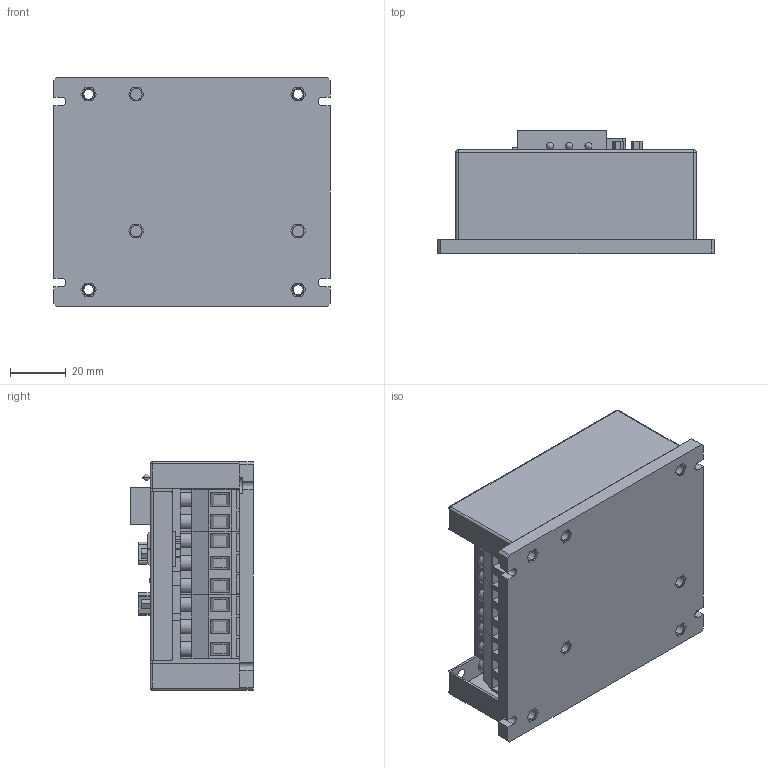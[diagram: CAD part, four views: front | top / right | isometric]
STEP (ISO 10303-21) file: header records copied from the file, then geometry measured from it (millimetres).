
FILE_DESCRIPTION (( 'STEP AP203' ), '1' );
FILE_NAME ('IXLS3060 髡夔尨砩芞.STEP', '2025-04-24T03:13:50', ( '' ), ( '' ), 'SwSTEP 2.0', 'SolidWorks 2018', '' );
FILE_SCHEMA (( 'CONFIG_CONTROL_DESIGN' ));
Length unit declared in the file: millimetre
Products named in the file (1): IXLS3060 髡夔尨砩芞
Bounding box: 99 x 44 x 82 mm (x, y, z)
Volume: 74843.7 mm3; surface area: 63882.4 mm2
Topology: 15 solids, 15 shells, 869 faces, 2187 edges, 1451 vertices
Faces by surface type: plane 659, cylinder 192, cone 8, sphere 6, bspline 4
Entity records: 25905 total; most frequent: CARTESIAN_POINT 4540, ORIENTED_EDGE 4336, DIRECTION 4306, EDGE_CURVE 2168, LINE 1762, VECTOR 1762, VERTEX_POINT 1442, AXIS2_PLACEMENT_3D 1272
